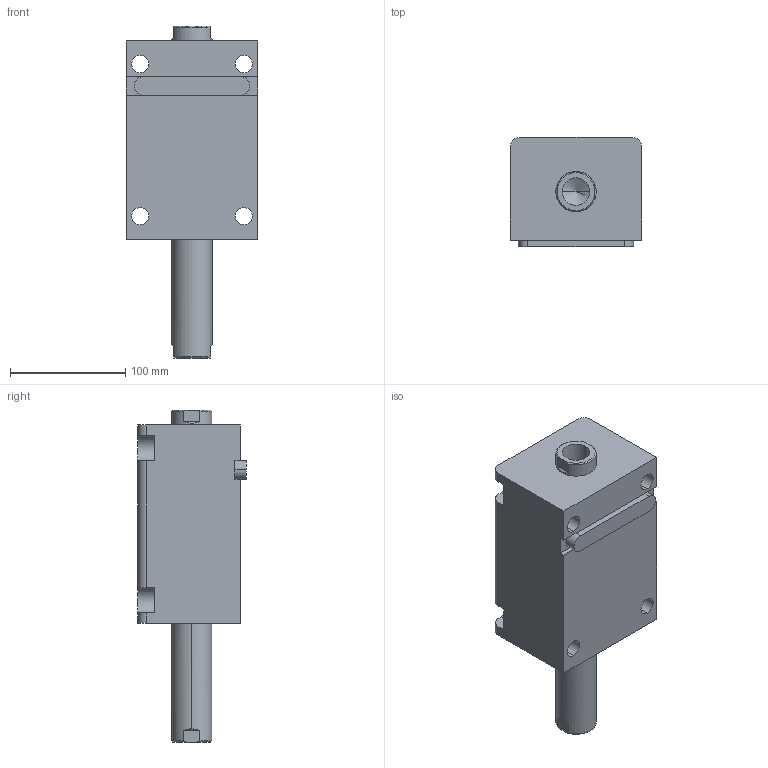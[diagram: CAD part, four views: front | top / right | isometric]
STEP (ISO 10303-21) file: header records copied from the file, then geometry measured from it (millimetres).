
FILE_DESCRIPTION (( 'STEP AP203' ), '1' );
FILE_NAME ('HTB-LW63-90N.STEP', '2019-10-09T08:29:35', ( '微软用户' ), ( '微软中国' ), 'SwSTEP 2.0', 'SolidWorks 2012', '' );
FILE_SCHEMA (( 'CONFIG_CONTROL_DESIGN' ));
Length unit declared in the file: millimetre
Products named in the file (4): HTB-LW63-90N; HTB-LA63-瑩; HTB-LW63-90N活塞杆; HTB-LW63-90掛极
Assembly tree (3 placements, depth 2):
  HTB-LW63-90N
    HTB-LW63-90掛极
    HTB-LW63-90N活塞杆
    HTB-LA63-瑩
Bounding box: 114 x 94.5 x 288 mm (x, y, z)
Volume: 1546989.2 mm3; surface area: 186955.2 mm2
Topology: 3 solids, 3 shells, 101 faces, 253 edges, 164 vertices
Faces by surface type: plane 44, cylinder 41, cone 12, torus 4
Entity records: 3467 total; most frequent: CARTESIAN_POINT 576, DIRECTION 549, ORIENTED_EDGE 498, EDGE_CURVE 249, AXIS2_PLACEMENT_3D 209, VERTEX_POINT 164, LINE 131, VECTOR 131
